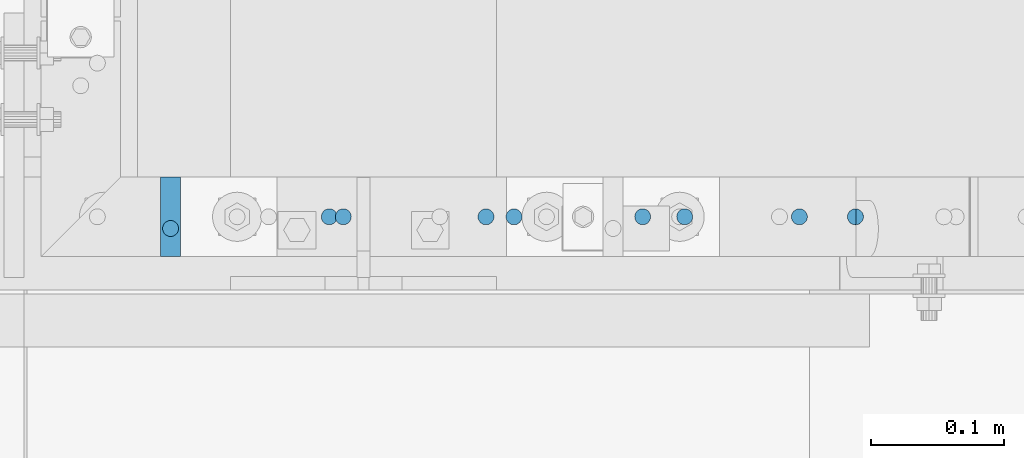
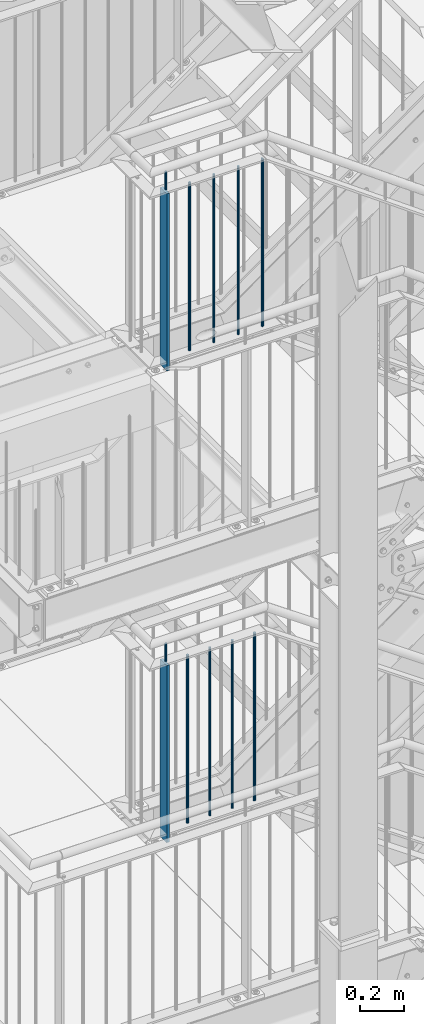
# One storey, part 29 of 825: 12 columns, 1 opening.
"""IFC2X3 building model written with IfcOpenShell, lengths in millimetres."""

from ifc_helpers import new_model, entity, si_unit, converted_unit, frame, origin, origin_with_axes, origin_2d, place, context, project, spatial, polyline, rectangle, circle, outline, extrude, clip, halfspace, material, element, save


model = new_model("IFC2X3")

# Units and contexts
model_context = context("Model", 3, precision=1e-09, world=origin_with_axes())
ifc_project = project(units=[si_unit("LENGTHUNIT", "METRE", prefix="MILLI"), si_unit("AREAUNIT", "SQUARE_METRE"), si_unit("VOLUMEUNIT", "CUBIC_METRE"), converted_unit("PLANEANGLEUNIT", "DEGREE", entity("IfcPlaneAngleMeasure", 0.01745329), si_unit("PLANEANGLEUNIT", "RADIAN"), dimensions=[0, 0, 0, 0, 0, 0, 0])], contexts=[model_context])

# Site, building, storey
site_placement = place(None, origin_with_axes())
site = spatial("IfcSite", under=ifc_project, at=site_placement, Name="Cnopf'sche Kinderklinik", CompositionType="ELEMENT")
building_placement = place(site_placement, origin_with_axes())
building = spatial("IfcBuilding", under=site, at=building_placement, Name="Struktur 1", CompositionType="ELEMENT")
storey_placement = place(building_placement, origin_with_axes())
storey = spatial("IfcBuildingStorey", under=building, at=storey_placement, Name="Default Storey", CompositionType="ELEMENT", Elevation=0.0)

# Columns
ifc_material = material(Name="S235JR")
column_1_placement = place(None, frame((4711.713402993, 5791.736971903, 8359.723292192), z_axis=(0.0, 0.0, 1.0), x_axis=(-1.0, 0.0, 0.0)))
element("IfcColumn", 1, at=column_1_placement, inside=storey, material=ifc_material, Name="Railing_Post_Landing#3", ObjectType="Railing_Post_Landing#3", context=model_context, shape_type="Clipping", body=[
    clip(clip(extrude(rectangle(XDim=15.0, YDim=60.0, at=origin_2d()), origin(), (0.0, 0.0, -1.0), 1070.646584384), halfspace(frame((4711.713402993, 5791.736971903, -1019.722292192), z_axis=(0.0, 0.0, 1.0), x_axis=(-1.0, 0.0, 0.0)), True)), halfspace(frame((4711.713402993, 5791.736971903, -30.924292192), z_axis=(0.0, 0.0, -1.0), x_axis=(1.0, 0.0, 0.0)), True)),
])
column_2_placement = place(None, frame((5184.21356966, 5791.736971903, 8328.8), z_axis=(0.0, 0.0, 1.0), x_axis=(-1.0, 0.0, 0.0)))
element("IfcColumn", 2, at=column_2_placement, inside=storey, material=ifc_material, Name="Railing_Picket_Landing#17", ObjectType="Railing_Picket_Landing#17", context=model_context, shape_type="SweptSolid", body=[
    extrude(circle(Radius=6.0, at=origin_2d()), origin(), (0.0, 0.0, -1.0), 938.8),
])
column_3_placement = place(None, frame((5066.463514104, 5791.736971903, 8342.285281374), z_axis=(0.0, 0.0, 1.0), x_axis=(-1.0, 0.0, 0.0)))
element("IfcColumn", 3, at=column_3_placement, inside=storey, material=ifc_material, Name="Railing_Picket_Landing#18", ObjectType="Railing_Picket_Landing#18", context=model_context, shape_type="Clipping", body=[
    clip(clip(extrude(circle(Radius=6.0, at=origin_2d()), origin(), (0.0, 0.0, -1.0), 965.770562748), halfspace(frame((5066.463514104, 5791.736971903, -13.486281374), z_axis=(0.0, 0.0, -1.0), x_axis=(1.0, 0.0, 0.0)), True)), halfspace(frame((5066.463514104, 5791.736971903, -952.284281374), z_axis=(0.0, 0.0, 1.0), x_axis=(-1.0, 0.0, 0.0)), True)),
])
column_4_placement = place(None, frame((4948.713458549, 5791.736971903, 8342.285281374), z_axis=(0.0, 0.0, 1.0), x_axis=(-1.0, 0.0, 0.0)))
element("IfcColumn", 4, at=column_4_placement, inside=storey, material=ifc_material, Name="Railing_Picket_Landing#19", ObjectType="Railing_Picket_Landing#19", context=model_context, shape_type="Clipping", body=[
    clip(clip(extrude(circle(Radius=6.0, at=origin_2d()), origin(), (0.0, 0.0, -1.0), 965.770562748), halfspace(frame((4948.713458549, 5791.736971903, -13.486281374), z_axis=(0.0, 0.0, -1.0), x_axis=(1.0, 0.0, 0.0)), True)), halfspace(frame((4948.713458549, 5791.736971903, -952.284281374), z_axis=(0.0, 0.0, 1.0), x_axis=(-1.0, 0.0, 0.0)), True)),
])
column_5_placement = place(None, frame((4830.963402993, 5791.736971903, 8342.285281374), z_axis=(0.0, 0.0, 1.0), x_axis=(-1.0, 0.0, 0.0)))
element("IfcColumn", 5, at=column_5_placement, inside=storey, material=ifc_material, Name="Railing_Picket_Landing#20", ObjectType="Railing_Picket_Landing#20", context=model_context, shape_type="Clipping", body=[
    clip(clip(extrude(circle(Radius=6.0, at=origin_2d()), origin(), (0.0, 0.0, -1.0), 965.770562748), halfspace(frame((4830.963402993, 5791.736971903, -13.486281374), z_axis=(0.0, 0.0, -1.0), x_axis=(1.0, 0.0, 0.0)), True)), halfspace(frame((4830.963402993, 5791.736971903, -952.284281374), z_axis=(0.0, 0.0, 1.0), x_axis=(-1.0, 0.0, 0.0)), True)),
])
column_6_placement = place(None, frame((4711.713402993, 5782.936971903, 8447.285281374), z_axis=(0.0, 0.0, 1.0), x_axis=(0.0, 1.0, 0.0)))
element("IfcColumn", 6, at=column_6_placement, inside=storey, material=ifc_material, Name="Bar#3", ObjectType="Bar#3", context=model_context, shape_type="Clipping", body=[
    clip(clip(extrude(circle(Radius=6.0, at=origin_2d()), origin(), (0.0, 0.0, -1.0), 116.970562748), halfspace(frame((-5782.936971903, 4711.713402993, -8.486281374), z_axis=(0.0, 0.0, -1.0), x_axis=(0.0, 1.0, 0.0)), True)), halfspace(frame((-5782.936971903, 4711.713402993, -108.484281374), z_axis=(0.0, 0.0, 1.0), x_axis=(0.0, -1.0, 0.0)), True)),
])
column_7_placement = place(None, frame((4711.713402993, 5791.736971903, 10991.723292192), z_axis=(0.0, 0.0, 1.0), x_axis=(-1.0, 0.0, 0.0)))
element("IfcColumn", 7, at=column_7_placement, inside=storey, material=ifc_material, Name="Railing_Post_Landing#2", ObjectType="Railing_Post_Landing#2", context=model_context, shape_type="Clipping", body=[
    clip(clip(extrude(rectangle(XDim=15.0, YDim=60.0, at=origin_2d()), origin(), (0.0, 0.0, -1.0), 1070.646584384), halfspace(frame((4711.713402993, 5791.736971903, -1019.722292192), z_axis=(0.0, 0.0, 1.0), x_axis=(-1.0, 0.0, 0.0)), True)), halfspace(frame((4711.713402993, 5791.736971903, -30.924292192), z_axis=(0.0, 0.0, -1.0), x_axis=(1.0, 0.0, 0.0)), True)),
])

# Column, opening
column_8_placement = place(None, frame((5226.32504585, 5791.736971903, 10960.8), z_axis=(0.0, 0.0, 1.0), x_axis=(-1.0, 0.0, 0.0)))
column_8 = element("IfcColumn", 8, at=column_8_placement, inside=storey, material=ifc_material, Name="Railing_Picket_Landing#12", ObjectType="Railing_Picket_Landing#12", context=model_context, shape_type="SweptSolid", body=[
    extrude(circle(Radius=6.0, at=origin_2d()), origin(), (0.0, 0.0, -1.0), 938.8),
])
opening_placement = place(column_8_placement, frame((0.0, -106.1, 0.0), z_axis=(0.0, 1.0, 0.0), x_axis=(-1.0, 0.0, 0.0)))
element("IfcOpeningElement", 9, at=opening_placement, cuts=column_8, ObjectType="Opening", context=model_context, shape_type="SweptSolid", body=[
    extrude(outline(polyline([(30.770960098, 24.917810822), (0.289033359, 24.917810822), (0.289033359, -0.000510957), (23.993802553, -17.140882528), (30.770960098, 24.917810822)])), origin(), (0.0, 0.0, 1.0), 212.2),
])

# Columns
column_9_placement = place(None, frame((5098.047831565, 5791.736971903, 10974.285281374), z_axis=(0.0, 0.0, 1.0), x_axis=(-1.0, 0.0, 0.0)))
element("IfcColumn", 10, at=column_9_placement, inside=storey, material=ifc_material, Name="Railing_Picket_Landing#13", ObjectType="Railing_Picket_Landing#13", context=model_context, shape_type="Clipping", body=[
    clip(clip(extrude(circle(Radius=6.0, at=origin_2d()), origin(), (0.0, 0.0, -1.0), 965.770562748), halfspace(frame((5098.047831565, 5791.736971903, -13.486281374), z_axis=(0.0, 0.0, -1.0), x_axis=(1.0, 0.0, 0.0)), True)), halfspace(frame((5098.047831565, 5791.736971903, -952.284281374), z_axis=(0.0, 0.0, 1.0), x_axis=(-1.0, 0.0, 0.0)), True)),
])
column_10_placement = place(None, frame((4969.770617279, 5791.736971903, 10974.285281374), z_axis=(0.0, 0.0, 1.0), x_axis=(-1.0, 0.0, 0.0)))
element("IfcColumn", 11, at=column_10_placement, inside=storey, material=ifc_material, Name="Railing_Picket_Landing#14", ObjectType="Railing_Picket_Landing#14", context=model_context, shape_type="Clipping", body=[
    clip(clip(extrude(circle(Radius=6.0, at=origin_2d()), origin(), (0.0, 0.0, -1.0), 965.770562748), halfspace(frame((4969.770617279, 5791.736971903, -13.486281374), z_axis=(0.0, 0.0, -1.0), x_axis=(1.0, 0.0, 0.0)), True)), halfspace(frame((4969.770617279, 5791.736971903, -952.284281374), z_axis=(0.0, 0.0, 1.0), x_axis=(-1.0, 0.0, 0.0)), True)),
])
column_11_placement = place(None, frame((4841.493402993, 5791.736971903, 10974.285281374), z_axis=(0.0, 0.0, 1.0), x_axis=(-1.0, 0.0, 0.0)))
element("IfcColumn", 12, at=column_11_placement, inside=storey, material=ifc_material, Name="Railing_Picket_Landing#15", ObjectType="Railing_Picket_Landing#15", context=model_context, shape_type="Clipping", body=[
    clip(clip(extrude(circle(Radius=6.0, at=origin_2d()), origin(), (0.0, 0.0, -1.0), 965.770562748), halfspace(frame((4841.493402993, 5791.736971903, -13.486281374), z_axis=(0.0, 0.0, -1.0), x_axis=(1.0, 0.0, 0.0)), True)), halfspace(frame((4841.493402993, 5791.736971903, -952.284281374), z_axis=(0.0, 0.0, 1.0), x_axis=(-1.0, 0.0, 0.0)), True)),
])
column_12_placement = place(None, frame((4711.713402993, 5782.936971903, 11079.285281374), z_axis=(0.0, 0.0, 1.0), x_axis=(0.0, 1.0, 0.0)))
element("IfcColumn", 13, at=column_12_placement, inside=storey, material=ifc_material, Name="Bar#2", ObjectType="Bar#2", context=model_context, shape_type="Clipping", body=[
    clip(clip(extrude(circle(Radius=6.0, at=origin_2d()), origin(), (0.0, 0.0, -1.0), 116.970562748), halfspace(frame((-5782.936971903, 4711.713402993, -8.486281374), z_axis=(0.0, 0.0, -1.0), x_axis=(0.0, 1.0, 0.0)), True)), halfspace(frame((-5782.936971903, 4711.713402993, -108.484281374), z_axis=(0.0, 0.0, 1.0), x_axis=(0.0, -1.0, 0.0)), True)),
])

save(model, "model.ifc")
